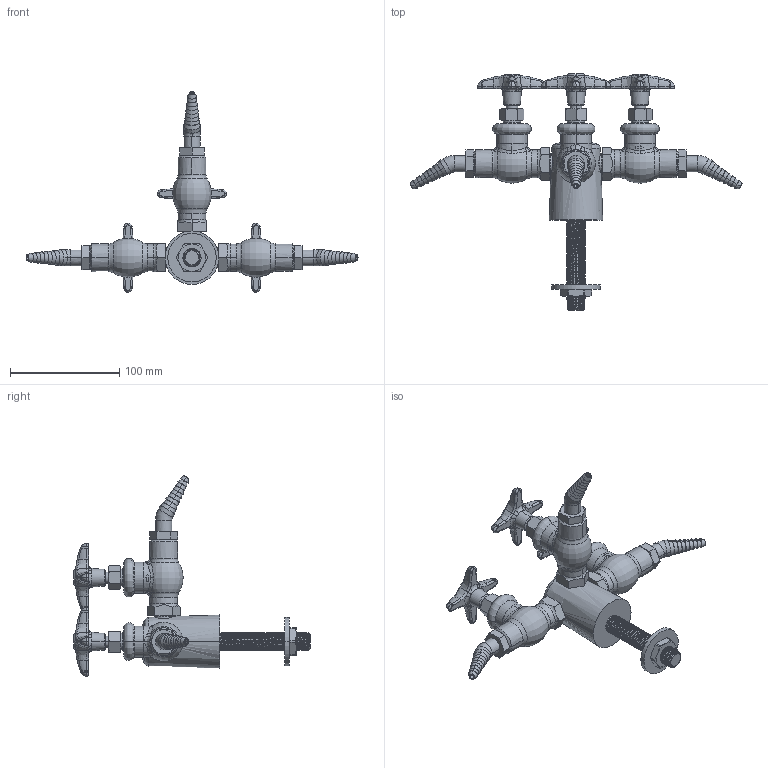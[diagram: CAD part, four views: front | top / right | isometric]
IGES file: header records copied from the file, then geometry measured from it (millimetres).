
Start section:  PTC IGES file: LGN1-A22H-30.igs
Global section: file name: LGN1-A22H-30.igs; native system: Creo Parametric by PTC Inc.; preprocessor: 2014500; author: usch_engrender; organization: Unknown; date: 20151215.165431; units: inch
Bounding box: 304.35 x 216.39 x 183.89 mm (x, y, z)
Volume: 378717 mm3; surface area: 91266.6 mm2
Topology: 1 solids, 15 shells, 1174 faces, 2728 edges, 1640 vertices
Faces by surface type: bspline 660, revolution 514
